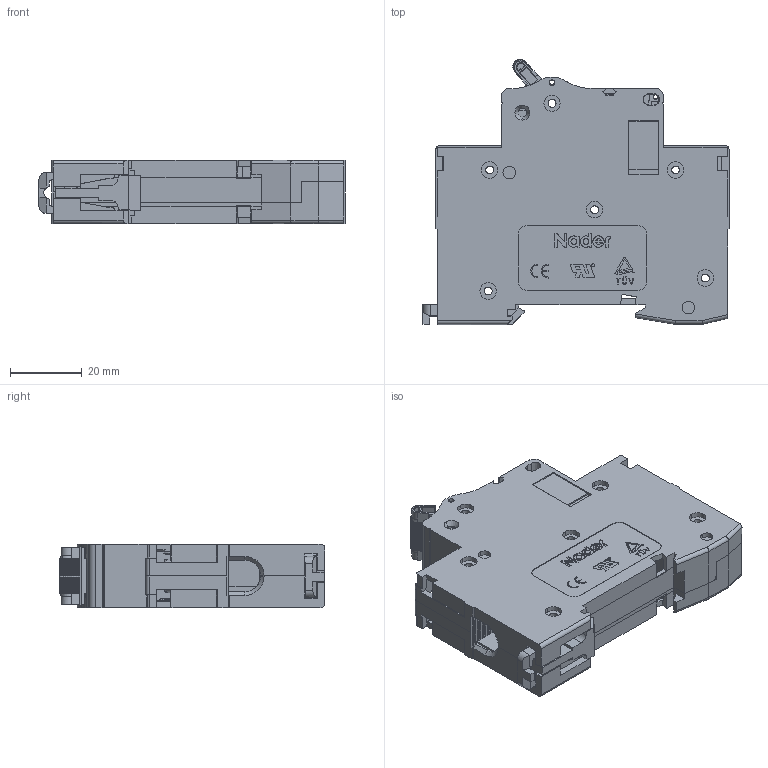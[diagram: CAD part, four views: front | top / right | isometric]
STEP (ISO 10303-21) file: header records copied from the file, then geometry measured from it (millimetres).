
FILE_DESCRIPTION (( 'STEP AP214' ), '1' );
FILE_NAME ('1p.STEP', '2021-09-02T11:14:40', ( '' ), ( '' ), 'SwSTEP 2.0', 'SolidWorks 2018', '' );
FILE_SCHEMA (( 'AUTOMOTIVE_DESIGN' ));
Length unit declared in the file: millimetre
Products named in the file (12): 8LD.516.163; 8LD.516.135; 5LD.574.103; 8LD.143.115; 8LD.253.129; 8LD.315.141; 8LD.516.164; 8LD.315.140; 1p; 8LD.024.137; 8LD.039.100; 8LD.907.115
Assembly tree (13 placements, depth 3):
  1p
    8LD.024.137
    8LD.253.129
    5LD.574.103  x2
      8LD.516.135
      8LD.907.115
    8LD.143.115
    8LD.315.140
    8LD.315.141  x2
    8LD.516.163
    8LD.516.164
    8LD.039.100
Bounding box: 85.1 x 73.74 x 17.6 mm (x, y, z)
Volume: 77635.5 mm3; surface area: 48648 mm2
Topology: 16 solids, 24 shells, 3404 faces, 9543 edges, 6262 vertices
Faces by surface type: plane 1984, cylinder 1002, cone 239, bspline 152, torus 19, sphere 8
Entity records: 112880 total; most frequent: CARTESIAN_POINT 32734, ORIENTED_EDGE 17632, DIRECTION 15137, EDGE_CURVE 8816, VECTOR 5853, LINE 5853, VERTEX_POINT 5795, AXIS2_PLACEMENT_3D 4642
